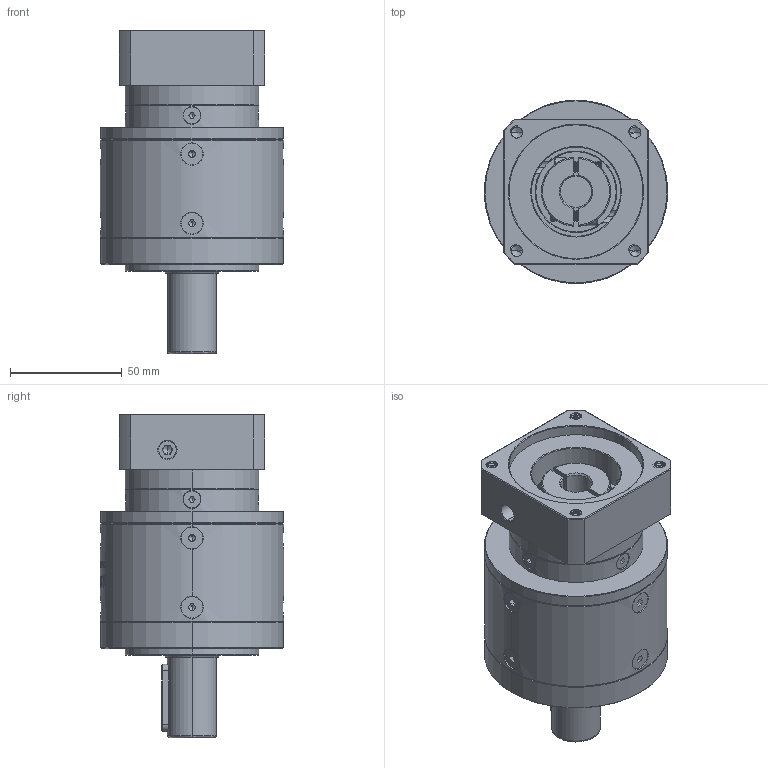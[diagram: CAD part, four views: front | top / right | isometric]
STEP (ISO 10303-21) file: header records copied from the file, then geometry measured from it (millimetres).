
FILE_DESCRIPTION (( 'STEP AP214' ), '1' );
FILE_NAME ('ZE80-D22-L2-14-60-75-M6.step', '2022-05-08T06:03:37', ( '' ), ( 'Microsoft' ), 'SwSTEP 2.0', 'SolidWorks 2016', '' );
FILE_SCHEMA (( 'AUTOMOTIVE_DESIGN' ));
Length unit declared in the file: millimetre
Products named in the file (1): ZE80-D22-L2-14-60-75-M6
Bounding box: 82 x 82 x 145 mm (x, y, z)
Volume: 457858.6 mm3; surface area: 67596.5 mm2
Topology: 18 solids, 18 shells, 2135 faces, 5603 edges, 3560 vertices
Faces by surface type: plane 948, cylinder 521, bspline 340, cone 312, torus 14
Entity records: 121776 total; most frequent: CARTESIAN_POINT 49930, ORIENTED_EDGE 11114, DIRECTION 8649, EDGE_CURVE 5557, VERTEX_POINT 3560, LINE 2965, VECTOR 2965, AXIS2_PLACEMENT_3D 2842
